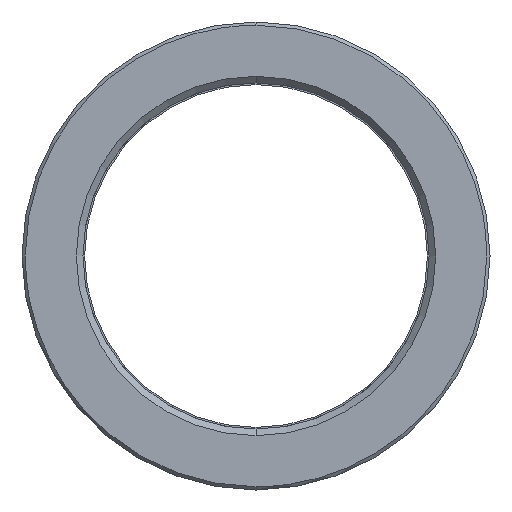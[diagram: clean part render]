
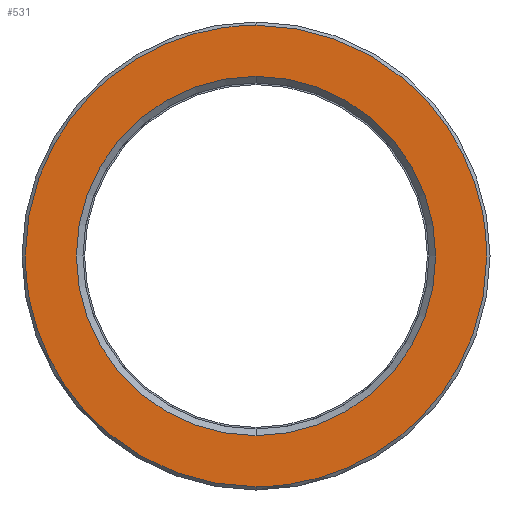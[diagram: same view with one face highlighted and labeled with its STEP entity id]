
A CAD part, left-side view. The second image highlights one B-rep face of the part: STEP entity #531.
In plain terms, the highlighted planar face has unit normal (-1, 0, 0).
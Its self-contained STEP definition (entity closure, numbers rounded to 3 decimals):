
#311=CARTESIAN_POINT('Axis2P3D Location',(0.,0.,0.)) ;
#315=CARTESIAN_POINT('Vertex',(0.,27.25,0.)) ;
#317=CARTESIAN_POINT('Vertex',(0.,0.,27.25)) ;
#320=CARTESIAN_POINT('Axis2P3D Location',(0.,0.,0.)) ;
#324=CARTESIAN_POINT('Vertex',(0.,0.,-27.25)) ;
#351=CARTESIAN_POINT('Axis2P3D Location',(0.,0.,0.)) ;
#355=CARTESIAN_POINT('Vertex',(0.,-27.25,0.)) ;
#358=CARTESIAN_POINT('Axis2P3D Location',(0.,0.,0.)) ;
#438=CARTESIAN_POINT('Axis2P3D Location',(0.,35.,0.)) ;
#444=CARTESIAN_POINT('Control Point',(0.,0.,-35.)) ;
#445=CARTESIAN_POINT('Control Point',(0.,1.757,-35.)) ;
#446=CARTESIAN_POINT('Control Point',(0.,3.514,-34.89)) ;
#447=CARTESIAN_POINT('Control Point',(0.,5.261,-34.669)) ;
#448=CARTESIAN_POINT('Control Point',(0.,10.128,-33.742)) ;
#449=CARTESIAN_POINT('Control Point',(0.,14.778,-31.968)) ;
#450=CARTESIAN_POINT('Control Point',(0.,17.633,-30.487)) ;
#451=CARTESIAN_POINT('Control Point',(0.,22.955,-26.9)) ;
#452=CARTESIAN_POINT('Control Point',(0.,27.334,-22.209)) ;
#453=CARTESIAN_POINT('Control Point',(0.,29.246,-19.623)) ;
#454=CARTESIAN_POINT('Control Point',(0.,32.284,-14.345)) ;
#455=CARTESIAN_POINT('Control Point',(0.,34.122,-8.548)) ;
#456=CARTESIAN_POINT('Control Point',(0.,34.707,-5.725)) ;
#457=CARTESIAN_POINT('Control Point',(0.,35.,-2.863)) ;
#458=CARTESIAN_POINT('Control Point',(0.,35.,0.)) ;
#459=CARTESIAN_POINT('Vertex',(0.,0.,-35.)) ;
#461=CARTESIAN_POINT('Vertex',(0.,35.,0.)) ;
#465=CARTESIAN_POINT('Control Point',(0.,-35.,0.)) ;
#466=CARTESIAN_POINT('Control Point',(0.,-35.,-3.188)) ;
#467=CARTESIAN_POINT('Control Point',(0.,-34.637,-6.376)) ;
#468=CARTESIAN_POINT('Control Point',(0.,-33.911,-9.509)) ;
#469=CARTESIAN_POINT('Control Point',(0.,-31.758,-15.555)) ;
#470=CARTESIAN_POINT('Control Point',(0.,-28.302,-20.962)) ;
#471=CARTESIAN_POINT('Control Point',(0.,-26.272,-23.456)) ;
#472=CARTESIAN_POINT('Control Point',(0.,-21.679,-27.938)) ;
#473=CARTESIAN_POINT('Control Point',(0.,-16.197,-31.274)) ;
#474=CARTESIAN_POINT('Control Point',(0.,-13.276,-32.621)) ;
#475=CARTESIAN_POINT('Control Point',(0.,-8.86,-34.074)) ;
#476=CARTESIAN_POINT('Control Point',(0.,-4.289,-34.781)) ;
#477=CARTESIAN_POINT('Control Point',(0.,-2.863,-34.927)) ;
#478=CARTESIAN_POINT('Control Point',(0.,-1.431,-35.)) ;
#479=CARTESIAN_POINT('Control Point',(0.,0.,-35.)) ;
#480=CARTESIAN_POINT('Vertex',(0.,-35.,0.)) ;
#484=CARTESIAN_POINT('Control Point',(0.,0.,35.)) ;
#485=CARTESIAN_POINT('Control Point',(0.,-1.757,35.)) ;
#486=CARTESIAN_POINT('Control Point',(0.,-3.514,34.89)) ;
#487=CARTESIAN_POINT('Control Point',(0.,-5.261,34.669)) ;
#488=CARTESIAN_POINT('Control Point',(0.,-10.128,33.742)) ;
#489=CARTESIAN_POINT('Control Point',(0.,-14.778,31.968)) ;
#490=CARTESIAN_POINT('Control Point',(0.,-17.633,30.487)) ;
#491=CARTESIAN_POINT('Control Point',(0.,-22.955,26.9)) ;
#492=CARTESIAN_POINT('Control Point',(0.,-27.334,22.209)) ;
#493=CARTESIAN_POINT('Control Point',(0.,-29.246,19.623)) ;
#494=CARTESIAN_POINT('Control Point',(0.,-32.284,14.345)) ;
#495=CARTESIAN_POINT('Control Point',(0.,-34.122,8.548)) ;
#496=CARTESIAN_POINT('Control Point',(0.,-34.707,5.725)) ;
#497=CARTESIAN_POINT('Control Point',(0.,-35.,2.863)) ;
#498=CARTESIAN_POINT('Control Point',(0.,-35.,0.)) ;
#499=CARTESIAN_POINT('Vertex',(0.,0.,35.)) ;
#503=CARTESIAN_POINT('Control Point',(0.,35.,0.)) ;
#504=CARTESIAN_POINT('Control Point',(0.,35.,3.188)) ;
#505=CARTESIAN_POINT('Control Point',(0.,34.637,6.376)) ;
#506=CARTESIAN_POINT('Control Point',(0.,33.911,9.509)) ;
#507=CARTESIAN_POINT('Control Point',(0.,31.758,15.555)) ;
#508=CARTESIAN_POINT('Control Point',(0.,28.302,20.962)) ;
#509=CARTESIAN_POINT('Control Point',(0.,26.272,23.456)) ;
#510=CARTESIAN_POINT('Control Point',(0.,21.679,27.938)) ;
#511=CARTESIAN_POINT('Control Point',(0.,16.197,31.274)) ;
#512=CARTESIAN_POINT('Control Point',(0.,13.276,32.621)) ;
#513=CARTESIAN_POINT('Control Point',(0.,8.86,34.074)) ;
#514=CARTESIAN_POINT('Control Point',(0.,4.289,34.781)) ;
#515=CARTESIAN_POINT('Control Point',(0.,2.863,34.927)) ;
#516=CARTESIAN_POINT('Control Point',(0.,1.431,35.)) ;
#517=CARTESIAN_POINT('Control Point',(0.,0.,35.)) ;
#312=DIRECTION('Axis2P3D Direction',(-1.,0.,0.)) ;
#321=DIRECTION('Axis2P3D Direction',(-1.,0.,0.)) ;
#352=DIRECTION('Axis2P3D Direction',(-1.,0.,0.)) ;
#359=DIRECTION('Axis2P3D Direction',(-1.,0.,0.)) ;
#439=DIRECTION('Axis2P3D Direction',(-1.,0.,0.)) ;
#440=DIRECTION('Axis2P3D XDirection',(0.,0.,1.)) ;
#313=AXIS2_PLACEMENT_3D('Circle Axis2P3D',#311,#312,$) ;
#322=AXIS2_PLACEMENT_3D('Circle Axis2P3D',#320,#321,$) ;
#353=AXIS2_PLACEMENT_3D('Circle Axis2P3D',#351,#352,$) ;
#360=AXIS2_PLACEMENT_3D('Circle Axis2P3D',#358,#359,$) ;
#441=AXIS2_PLACEMENT_3D('Plane Axis2P3D',#438,#439,#440) ;
#520=ORIENTED_EDGE('',*,*,#463,.F.) ;
#521=ORIENTED_EDGE('',*,*,#482,.F.) ;
#522=ORIENTED_EDGE('',*,*,#501,.F.) ;
#523=ORIENTED_EDGE('',*,*,#518,.F.) ;
#526=ORIENTED_EDGE('',*,*,#319,.T.) ;
#527=ORIENTED_EDGE('',*,*,#362,.T.) ;
#528=ORIENTED_EDGE('',*,*,#357,.T.) ;
#529=ORIENTED_EDGE('',*,*,#326,.T.) ;
#530=FACE_BOUND('',#525,.T.) ;
#531=ADVANCED_FACE('553-52X246',(#524,#530),#442,.T.) ;
#443=B_SPLINE_CURVE_WITH_KNOTS('',5,(#444,#445,#446,#447,#448,#449,#450,#451,#452,#453,#454,#455,#456,#457,#458),.UNSPECIFIED.,.F.,.U.,(6,3,3,3,6),(77.75,90.172,112.716,135.259,155.5),.UNSPECIFIED.) ;
#464=B_SPLINE_CURVE_WITH_KNOTS('',5,(#465,#466,#467,#468,#469,#470,#471,#472,#473,#474,#475,#476,#477,#478,#479),.UNSPECIFIED.,.F.,.U.,(6,3,3,3,6),(0.,22.543,45.086,67.629,77.75),.UNSPECIFIED.) ;
#483=B_SPLINE_CURVE_WITH_KNOTS('',5,(#484,#485,#486,#487,#488,#489,#490,#491,#492,#493,#494,#495,#496,#497,#498),.UNSPECIFIED.,.F.,.U.,(6,3,3,3,6),(77.75,90.172,112.716,135.259,155.5),.UNSPECIFIED.) ;
#502=B_SPLINE_CURVE_WITH_KNOTS('',5,(#503,#504,#505,#506,#507,#508,#509,#510,#511,#512,#513,#514,#515,#516,#517),.UNSPECIFIED.,.F.,.U.,(6,3,3,3,6),(0.,22.543,45.086,67.629,77.75),.UNSPECIFIED.) ;
#314=CIRCLE('generated circle',#313,27.25) ;
#323=CIRCLE('generated circle',#322,27.25) ;
#354=CIRCLE('generated circle',#353,27.25) ;
#361=CIRCLE('generated circle',#360,27.25) ;
#319=EDGE_CURVE('',#316,#318,#314,.F.) ;
#326=EDGE_CURVE('',#325,#316,#323,.F.) ;
#357=EDGE_CURVE('',#356,#325,#354,.F.) ;
#362=EDGE_CURVE('',#318,#356,#361,.F.) ;
#463=EDGE_CURVE('',#460,#462,#443,.T.) ;
#482=EDGE_CURVE('',#481,#460,#464,.T.) ;
#501=EDGE_CURVE('',#500,#481,#483,.T.) ;
#518=EDGE_CURVE('',#462,#500,#502,.T.) ;
#519=EDGE_LOOP('',(#520,#521,#522,#523)) ;
#525=EDGE_LOOP('',(#526,#527,#528,#529)) ;
#524=FACE_OUTER_BOUND('',#519,.T.) ;
#442=PLANE('Plane',#441) ;
#316=VERTEX_POINT('',#315) ;
#318=VERTEX_POINT('',#317) ;
#325=VERTEX_POINT('',#324) ;
#356=VERTEX_POINT('',#355) ;
#460=VERTEX_POINT('',#459) ;
#462=VERTEX_POINT('',#461) ;
#481=VERTEX_POINT('',#480) ;
#500=VERTEX_POINT('',#499) ;
